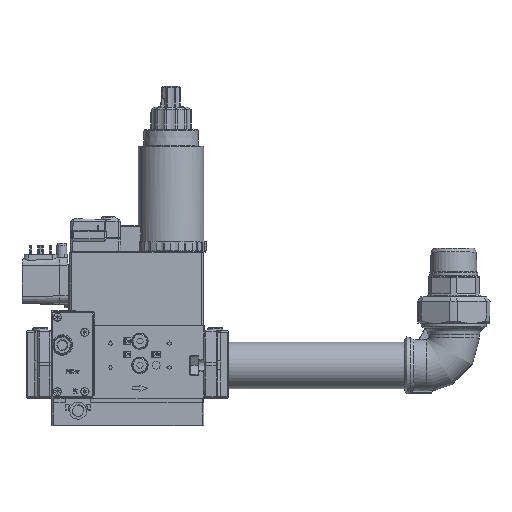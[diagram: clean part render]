
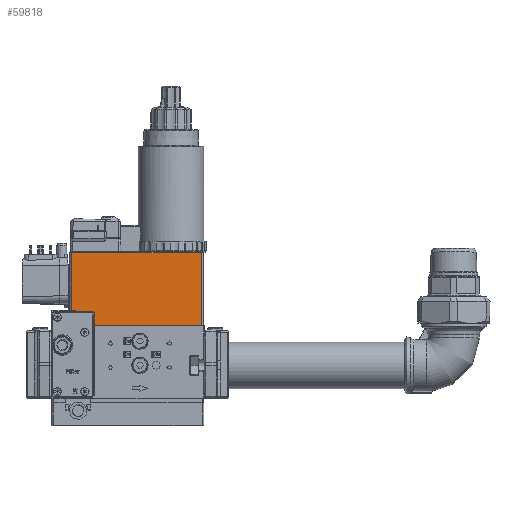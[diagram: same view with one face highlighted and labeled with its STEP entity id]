
A CAD part, top view. The second image highlights one B-rep face of the part: STEP entity #59818.
In plain terms, the highlighted planar face has unit normal (0, 0.009, 1) as drawn and (0, -1, 0.009) by its records, which use the part's own axes.
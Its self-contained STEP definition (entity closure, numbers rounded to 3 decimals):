
#1528 = CARTESIAN_POINT ( 'NONE',  ( -87.058, -47.388, 12.806 ) ) ;
#2129 = VERTEX_POINT ( 'NONE', #112724 ) ;
#2584 = VECTOR ( 'NONE', #3482, 1000. ) ;
#3347 = VECTOR ( 'NONE', #96184, 1000. ) ;
#3482 = DIRECTION ( 'NONE',  ( -0.006, -0.009, -1. ) ) ;
#4936 = CARTESIAN_POINT ( 'NONE',  ( -96.95, -47.388, 12.806 ) ) ;
#11815 = CARTESIAN_POINT ( 'NONE',  ( -87.07, -47.376, 14.2 ) ) ;
#12402 = CARTESIAN_POINT ( 'NONE',  ( -87.058, -47.388, 12.806 ) ) ;
#13439 = CARTESIAN_POINT ( 'NONE',  ( 28., -47.5, 0. ) ) ;
#13974 = CARTESIAN_POINT ( 'NONE',  ( -90.693, -46.915, 67.009 ) ) ;
#13979 = DIRECTION ( 'NONE',  ( 1., 0., 0. ) ) ;
#14456 = LINE ( 'NONE', #22961, #35529 ) ;
#14523 = ORIENTED_EDGE ( 'NONE', *, *, #85928, .T. ) ;
#14701 = VECTOR ( 'NONE', #22458, 1000. ) ;
#15489 = ORIENTED_EDGE ( 'NONE', *, *, #38219, .T. ) ;
#16227 = VECTOR ( 'NONE', #75128, 1000. ) ;
#17476 = VECTOR ( 'NONE', #85234, 1000. ) ;
#18096 = VECTOR ( 'NONE', #63368, 1000. ) ;
#21783 = EDGE_CURVE ( 'NONE', #90658, #45484, #24357, .T. ) ;
#22011 = VERTEX_POINT ( 'NONE', #13974 ) ;
#22458 = DIRECTION ( 'NONE',  ( -0.009, 0.009, 1. ) ) ;
#22961 = CARTESIAN_POINT ( 'NONE',  ( -90.693, -46.915, 67.009 ) ) ;
#24293 = ORIENTED_EDGE ( 'NONE', *, *, #72900, .F. ) ;
#24357 = LINE ( 'NONE', #24438, #3347 ) ;
#24438 = CARTESIAN_POINT ( 'NONE',  ( -96.95, -47.5, 0. ) ) ;
#26548 = CARTESIAN_POINT ( 'NONE',  ( -73.244, -47.397, 11.806 ) ) ;
#26919 = EDGE_CURVE ( 'NONE', #94894, #67533, #68640, .T. ) ;
#27956 = VERTEX_POINT ( 'NONE', #26548 ) ;
#28106 = EDGE_CURVE ( 'NONE', #35772, #27956, #92039, .T. ) ;
#28841 = CARTESIAN_POINT ( 'NONE',  ( -74.244, -47.388, 12.806 ) ) ;
#35529 = VECTOR ( 'NONE', #13979, 1000. ) ;
#35772 = VERTEX_POINT ( 'NONE', #28841 ) ;
#36069 = LINE ( 'NONE', #115774, #83707 ) ;
#36286 = CARTESIAN_POINT ( 'NONE',  ( -96.95, -47.376, 14.2 ) ) ;
#37827 = CARTESIAN_POINT ( 'NONE',  ( -73.352, -47.392, 12.328 ) ) ;
#38219 = EDGE_CURVE ( 'NONE', #108651, #35772, #59509, .T. ) ;
#40584 = DIRECTION ( 'NONE',  ( 0., -1., 0.009 ) ) ;
#45484 = VERTEX_POINT ( 'NONE', #106645 ) ;
#45977 = EDGE_LOOP ( 'NONE', ( #15489, #116066, #50245, #115266, #100712, #24293, #14523, #104465, #102594 ) ) ;
#46817 = CARTESIAN_POINT ( 'NONE',  ( -73.244, -47.397, 11.806 ) ) ;
#50245 = ORIENTED_EDGE ( 'NONE', *, *, #68660, .T. ) ;
#53105 = LINE ( 'NONE', #66189, #2584 ) ;
#53117 = DIRECTION ( 'NONE',  ( 0., -0.009, -1. ) ) ;
#54612 = CARTESIAN_POINT ( 'NONE',  ( -73.244, -47.5, 0. ) ) ;
#55036 = EDGE_CURVE ( 'NONE', #108651, #67533, #82103, .T. ) ;
#59509 = LINE ( 'NONE', #4936, #17476 ) ;
#59818 = ADVANCED_FACE ( 'NONE', ( #108321 ), #94253, .T. ) ;
#60169 = AXIS2_PLACEMENT_3D ( 'NONE', #76219, #40584, #103221 ) ;
#63368 = DIRECTION ( 'NONE',  ( 1., 0., 0. ) ) ;
#64124 = CARTESIAN_POINT ( 'NONE',  ( -74.244, -47.388, 12.806 ) ) ;
#66189 = CARTESIAN_POINT ( 'NONE',  ( -90.693, -46.915, 67.009 ) ) ;
#67533 = VERTEX_POINT ( 'NONE', #11815 ) ;
#68640 = LINE ( 'NONE', #36286, #18096 ) ;
#68660 = EDGE_CURVE ( 'NONE', #27956, #90658, #36069, .T. ) ;
#72900 = EDGE_CURVE ( 'NONE', #22011, #2129, #14456, .T. ) ;
#73507 = CARTESIAN_POINT ( 'NONE',  ( -73.982, -47.388, 12.806 ) ) ;
#75128 = DIRECTION ( 'NONE',  ( -0.009, 0.009, 1. ) ) ;
#76219 = CARTESIAN_POINT ( 'NONE',  ( -96.95, -46.886, 70.359 ) ) ;
#80622 = CARTESIAN_POINT ( 'NONE',  ( -91., -47.376, 14.2 ) ) ;
#82103 = LINE ( 'NONE', #12402, #16227 ) ;
#83707 = VECTOR ( 'NONE', #53117, 1000. ) ;
#85234 = DIRECTION ( 'NONE',  ( 1., 0., 0. ) ) ;
#85928 = EDGE_CURVE ( 'NONE', #22011, #94894, #53105, .T. ) ;
#86221 = LINE ( 'NONE', #13439, #14701 ) ;
#90658 = VERTEX_POINT ( 'NONE', #54612 ) ;
#91506 = CARTESIAN_POINT ( 'NONE',  ( -73.722, -47.389, 12.698 ) ) ;
#92039 = B_SPLINE_CURVE_WITH_KNOTS ( 'NONE', 3,
 ( #64124, #73507, #91506, #37827, #100492, #46817 ),
 .UNSPECIFIED., .F., .F.,
 ( 4, 2, 4 ),
 ( 0., 0.001, 0.002 ),
 .UNSPECIFIED. ) ;
#94253 = PLANE ( 'NONE',  #60169 ) ;
#94894 = VERTEX_POINT ( 'NONE', #80622 ) ;
#96184 = DIRECTION ( 'NONE',  ( 1., 0., 0. ) ) ;
#100181 = EDGE_CURVE ( 'NONE', #45484, #2129, #86221, .T. ) ;
#100492 = CARTESIAN_POINT ( 'NONE',  ( -73.244, -47.395, 12.068 ) ) ;
#100712 = ORIENTED_EDGE ( 'NONE', *, *, #100181, .T. ) ;
#102594 = ORIENTED_EDGE ( 'NONE', *, *, #55036, .F. ) ;
#103221 = DIRECTION ( 'NONE',  ( 0., -0.009, -1. ) ) ;
#104465 = ORIENTED_EDGE ( 'NONE', *, *, #26919, .T. ) ;
#106645 = CARTESIAN_POINT ( 'NONE',  ( 28., -47.5, 0. ) ) ;
#108321 = FACE_OUTER_BOUND ( 'NONE', #45977, .T. ) ;
#108651 = VERTEX_POINT ( 'NONE', #1528 ) ;
#112724 = CARTESIAN_POINT ( 'NONE',  ( 27.415, -46.915, 67.009 ) ) ;
#115266 = ORIENTED_EDGE ( 'NONE', *, *, #21783, .T. ) ;
#115774 = CARTESIAN_POINT ( 'NONE',  ( -73.244, -46.886, 70.359 ) ) ;
#116066 = ORIENTED_EDGE ( 'NONE', *, *, #28106, .T. ) ;
